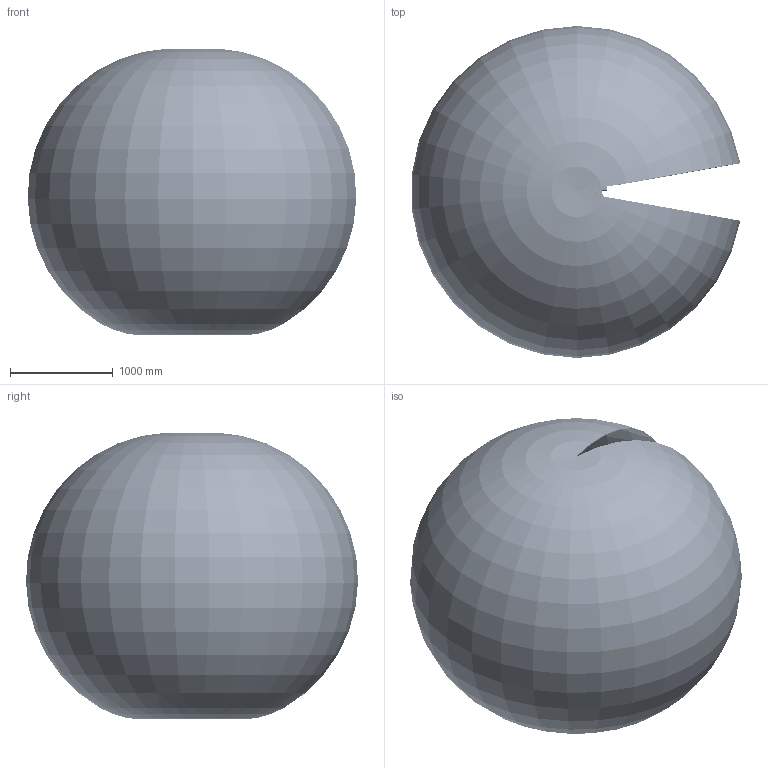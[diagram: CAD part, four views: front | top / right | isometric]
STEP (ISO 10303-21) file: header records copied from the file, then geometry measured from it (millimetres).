
FILE_DESCRIPTION (( 'STEP AP214' ), '1' );
FILE_NAME ('ER12H-1600V1.0 杅耀(湍婦釐)-2024312.STEP', '2024-03-12T03:07:55', ( '' ), ( '' ), 'SwSTEP 2.0', 'SolidWorks 2021', '' );
FILE_SCHEMA (( 'AUTOMOTIVE_DESIGN' ));
Length unit declared in the file: millimetre
Products named in the file (9): 复件 小臂^ER12H-1600V1.0 数模(带包络)-2024312; 湮旋^ER12H-1600V1.0 杅耀(湍婦釐)-2024312; 末端法兰^ER12H-1600V1.0 数模(带包络)-2024312; 蛌釱^ER12H-1600V1.0 杅耀(湍婦釐)-2024312; ER12H-1600运动空间^ER12H-1600V1.0 数模(带包络)-2024312; 菁釱^ER12H-1600V1.0 杅耀(湍婦釐)-2024312; ER12H-1600V1.0 杅耀(湍婦釐)-2024312; 电机座^ER12H-1600V1.0 数模(带包络)-2024312; 忒勂^ER12H-1600V1.0 杅耀(湍婦釐)-2024312
Assembly tree (8 placements, depth 2):
  ER12H-1600V1.0 杅耀(湍婦釐)-2024312
    菁釱^ER12H-1600V1.0 杅耀(湍婦釐)-2024312
    蛌釱^ER12H-1600V1.0 杅耀(湍婦釐)-2024312
    湮旋^ER12H-1600V1.0 杅耀(湍婦釐)-2024312
    电机座^ER12H-1600V1.0 数模(带包络)-2024312
    复件 小臂^ER12H-1600V1.0 数模(带包络)-2024312
    忒勂^ER12H-1600V1.0 杅耀(湍婦釐)-2024312
    末端法兰^ER12H-1600V1.0 数模(带包络)-2024312
    ER12H-1600运动空间^ER12H-1600V1.0 数模(带包络)-2024312
Bounding box: 3196.02 x 3229.4 x 2790.14 mm (x, y, z)
Volume: 349771403.7 mm3; surface area: 71956856.8 mm2
Topology: 4 solids, 54 shells, 7244 faces, 17997 edges, 10768 vertices
Faces by surface type: cylinder 2571, plane 1952, bspline 1783, torus 613, cone 254, sphere 71
Entity records: 394673 total; most frequent: CARTESIAN_POINT 187558, ORIENTED_EDGE 35192, DIRECTION 32531, EDGE_CURVE 17613, AXIS2_PLACEMENT_3D 13031, VERTEX_POINT 10766, EDGE_LOOP 7703, CIRCLE 7558
